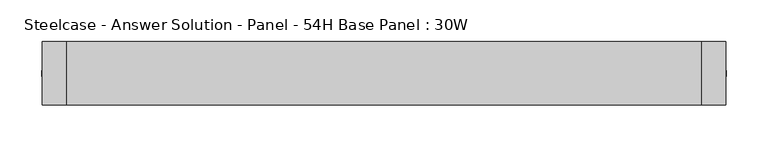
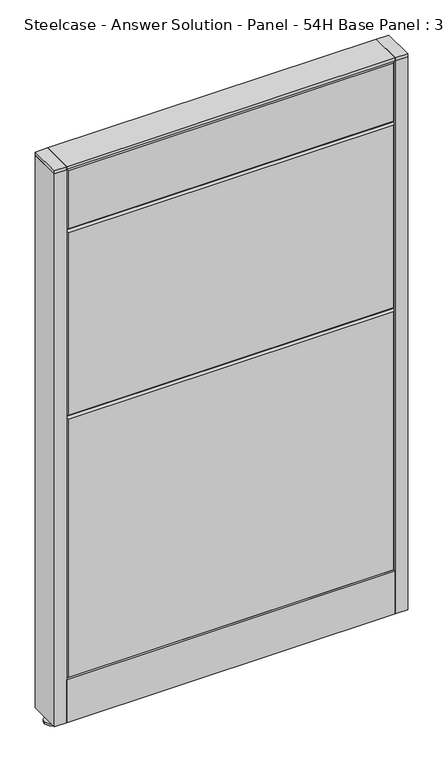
"""IFC4 building model written with IfcOpenShell, lengths in millimetres: furniture geometry, Steelcase - Answer Solution - Panel - 54H Base Panel : 30W."""

from ifc_helpers import new_model, si_unit, point, frame, frame_2d, origin, place, context, project, spatial, polyline, circle_curve, trimmed, segment, composite_curve, outline, extrude, faceted_brep, source, transform, mapped, element, save


def steelcase_answer_solution_panel_54h_base_panel_30w_bd17abb9(model_context):
    return source(origin(), model_context, "Body", "SolidModel", [
        extrude(outline(composite_curve([segment(trimmed(circle_curve(frame_2d((395.224, 0.0320214)), 5.08), [point((400.304, 0.0320214))], [point((390.144, 0.0320214))], False, "CARTESIAN"), True, "CONTINUOUS"), segment(trimmed(circle_curve(frame_2d((395.224, 0.0320214)), 5.08), [point((390.144, 0.0320214))], [point((400.304, 0.0320214))], False, "CARTESIAN"), True, "CONTINUOUS")], self_intersect=False)), frame((0.0, 0.0, 5.0799671), z_axis=(0.0, 0.0, 1.0), x_axis=(1.0, 0.0, 0.0)), (0.0, 0.0, 1.0), 10.414),
        extrude(outline(composite_curve([segment(trimmed(circle_curve(frame_2d((395.224, 0.0320214)), 15.24), [point((410.464, 0.0320214))], [point((379.984, 0.0320214))], False, "CARTESIAN"), True, "CONTINUOUS"), segment(trimmed(circle_curve(frame_2d((395.224, 0.0320214)), 15.24), [point((379.984, 0.0320214))], [point((410.464, 0.0320214))], False, "CARTESIAN"), True, "CONTINUOUS")], self_intersect=False)), frame((0.0, 0.0, -3.29e-05), z_axis=(0.0, 0.0, 1.0), x_axis=(1.0, 0.0, 0.0)), (0.0, 0.0, 1.0), 5.08),
        extrude(outline(polyline([(409.575, 38.1320408), (409.575, -38.0679592), (381.0, -38.0679592), (381.0, 38.1320408), (409.575, 38.1320408)])), frame((0.0, 0.0, 1370.6348), z_axis=(0.0, 0.0, 1.0), x_axis=(1.0, 0.0, 0.0)), (0.0, 0.0, 1.0), 7.3151671),
        extrude(outline(polyline([(409.575, 38.1320408), (409.575, -38.0679592), (381.0, -38.0679592), (381.0, 38.1320408), (409.575, 38.1320408)])), frame((0.0, 0.0, 15.4939671), z_axis=(0.0, 0.0, 1.0), x_axis=(1.0, 0.0, 0.0)), (0.0, 0.0, 1.0), 1355.1408329),
        extrude(outline(composite_curve([segment(trimmed(circle_curve(frame_2d((-395.224, 0.0320214)), 5.08), [point((-400.304, 0.0320214))], [point((-390.144, 0.0320214))], False, "CARTESIAN"), True, "CONTINUOUS"), segment(trimmed(circle_curve(frame_2d((-395.224, 0.0320214)), 5.08), [point((-390.144, 0.0320214))], [point((-400.304, 0.0320214))], False, "CARTESIAN"), True, "CONTINUOUS")], self_intersect=False)), frame((0.0, 0.0, 5.0799671), z_axis=(0.0, 0.0, 1.0), x_axis=(1.0, 0.0, 0.0)), (0.0, 0.0, 1.0), 10.414),
        extrude(outline(composite_curve([segment(trimmed(circle_curve(frame_2d((-395.224, 0.0320214)), 15.24), [point((-410.464, 0.0320214))], [point((-379.984, 0.0320214))], False, "CARTESIAN"), True, "CONTINUOUS"), segment(trimmed(circle_curve(frame_2d((-395.224, 0.0320214)), 15.24), [point((-379.984, 0.0320214))], [point((-410.464, 0.0320214))], False, "CARTESIAN"), True, "CONTINUOUS")], self_intersect=False)), frame((0.0, 0.0, -3.29e-05), z_axis=(0.0, 0.0, 1.0), x_axis=(1.0, 0.0, 0.0)), (0.0, 0.0, 1.0), 5.08),
        extrude(outline(polyline([(-409.575, 38.1320408), (-381.0, 38.1320408), (-381.0, -38.0679592), (-409.575, -38.0679592), (-409.575, 38.1320408)])), frame((0.0, 0.0, 1370.6348), z_axis=(0.0, 0.0, 1.0), x_axis=(1.0, 0.0, 0.0)), (0.0, 0.0, 1.0), 7.3151671),
        extrude(outline(polyline([(-409.575, 38.1320408), (-381.0, 38.1320408), (-381.0, -38.0679592), (-409.575, -38.0679592), (-409.575, 38.1320408)])), frame((0.0, 0.0, 15.4939671), z_axis=(0.0, 0.0, 1.0), x_axis=(1.0, 0.0, 0.0)), (0.0, 0.0, 1.0), 1355.1408329),
        faceted_brep([(-376.174, 38.1635011, 1366.774), (376.174, 38.1635011, 1366.774), (376.174, 38.1635011, 1224.026), (-376.174, 38.1635011, 1224.026), (-381.0, 33.3375011, 1371.6), (-381.0, 33.3375011, 1219.2), (381.0, 33.3375011, 1219.2), (381.0, 33.3375011, 1371.6)], [[[0, 1, 2, 3]], [[4, 5, 6, 7]], [[4, 7, 1, 0]], [[7, 6, 2, 1]], [[6, 5, 3, 2]], [[5, 4, 0, 3]]]),
        faceted_brep([(-376.174, 38.1635011, 1214.374), (376.174, 38.1635011, 1214.374), (376.174, 38.1635011, 766.826), (-376.174, 38.1635011, 766.826), (-381.0, 33.3375011, 1219.2), (-381.0, 33.3375011, 762.0), (381.0, 33.3375011, 762.0), (381.0, 33.3375011, 1219.2)], [[[0, 1, 2, 3]], [[4, 5, 6, 7]], [[4, 7, 1, 0]], [[7, 6, 2, 1]], [[6, 5, 3, 2]], [[5, 4, 0, 3]]]),
        faceted_brep([(-376.174, 38.1635011, 757.174), (376.174, 38.1635011, 757.174), (376.174, 38.1635011, 125.476), (-376.174, 38.1635011, 125.476), (-381.0, 33.3375011, 762.0), (-381.0, 33.3375011, 120.65), (381.0, 33.3375011, 120.65), (381.0, 33.3375011, 762.0)], [[[0, 1, 2, 3]], [[4, 5, 6, 7]], [[4, 7, 1, 0]], [[7, 6, 2, 1]], [[6, 5, 3, 2]], [[5, 4, 0, 3]]]),
        faceted_brep([(376.174, -38.1635011, 1366.774), (-376.174, -38.1635011, 1366.774), (-376.174, -38.1635011, 1224.026), (376.174, -38.1635011, 1224.026), (381.0, -33.3375011, 1371.6), (381.0, -33.3375011, 1219.2), (-381.0, -33.3375011, 1219.2), (-381.0, -33.3375011, 1371.6)], [[[0, 1, 2, 3]], [[4, 5, 6, 7]], [[4, 7, 1, 0]], [[7, 6, 2, 1]], [[6, 5, 3, 2]], [[5, 4, 0, 3]]]),
        faceted_brep([(376.174, -38.1635011, 1214.374), (-376.174, -38.1635011, 1214.374), (-376.174, -38.1635011, 766.826), (376.174, -38.1635011, 766.826), (381.0, -33.3375011, 1219.2), (381.0, -33.3375011, 762.0), (-381.0, -33.3375011, 762.0), (-381.0, -33.3375011, 1219.2)], [[[0, 1, 2, 3]], [[4, 5, 6, 7]], [[4, 7, 1, 0]], [[7, 6, 2, 1]], [[6, 5, 3, 2]], [[5, 4, 0, 3]]]),
        faceted_brep([(376.174, -38.1635011, 757.174), (-376.174, -38.1635011, 757.174), (-376.174, -38.1635011, 125.476), (376.174, -38.1635011, 125.476), (381.0, -33.3375011, 762.0), (381.0, -33.3375011, 120.65), (-381.0, -33.3375011, 120.65), (-381.0, -33.3375011, 762.0)], [[[0, 1, 2, 3]], [[4, 5, 6, 7]], [[4, 7, 1, 0]], [[7, 6, 2, 1]], [[6, 5, 3, 2]], [[5, 4, 0, 3]]]),
        extrude(outline(polyline([(381.0, 38.1000194), (381.0, -38.1000194), (-381.0, -38.1000194), (-381.0, 38.1000194), (381.0, 38.1000194)])), frame((0.0, 0.0, 1371.6), z_axis=(0.0, 0.0, 1.0), x_axis=(1.0, 0.0, 0.0)), (0.0, 0.0, 1.0), 6.35),
        extrude(outline(polyline([(25.4000011, 119.8575157), (25.4000011, 120.65), (38.1000194, 120.65), (38.1000194, 15.494), (37.3075215, 15.494), (37.3075215, 119.8575157), (25.4000011, 119.8575157)])), frame((-381.0, 0.0, 0.0), z_axis=(1.0, 0.0, 0.0), x_axis=(0.0, 1.0, 0.0)), (0.0, 0.0, 1.0), 762.0),
        extrude(outline(polyline([(-25.4000011, 119.8575157), (-37.3075215, 119.8575157), (-37.3075215, 15.494), (-38.1000194, 15.494), (-38.1000194, 120.65), (-25.4000011, 120.65), (-25.4000011, 119.8575157)])), frame((-381.0, 0.0, 0.0), z_axis=(1.0, 0.0, 0.0), x_axis=(0.0, 1.0, 0.0)), (0.0, 0.0, 1.0), 762.0),
    ])


if __name__ == "__main__":
    model = new_model("IFC4")
    model_context = context("Model", 3, world=origin())
    ifc_project = project(units=[si_unit("LENGTHUNIT", "METRE", prefix="MILLI")], contexts=[model_context])
    site = spatial("IfcSite", under=ifc_project)
    building = spatial("IfcBuilding", under=site)
    placement = place(None, origin())
    steelcase_answer_solution_panel_54h_base_panel_30w_shape = steelcase_answer_solution_panel_54h_base_panel_30w_bd17abb9(model_context)
    element("IfcFurniture", 1, ObjectType="Steelcase - Answer Solution - Panel - 54H Base Panel : 30W", at=placement, inside=building, context=model_context, shape_type="MappedRepresentation", body=[
        mapped(steelcase_answer_solution_panel_54h_base_panel_30w_shape, transform((0.0, 0.0, 0.0), x_axis=(1.0, 0.0, 0.0), y_axis=(0.0, 1.0, 0.0), z_axis=(0.0, 0.0, 1.0))),
    ])
    save(model, "model.ifc")
